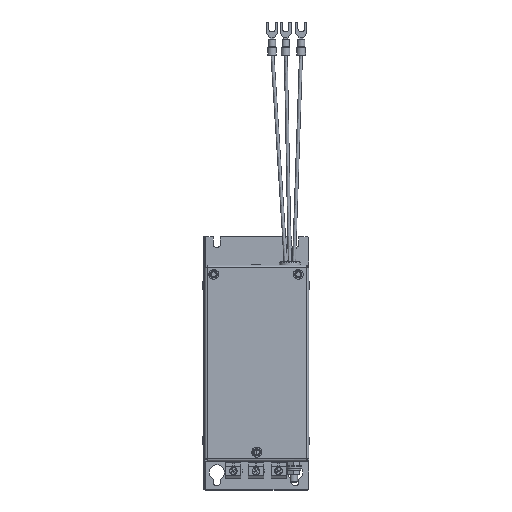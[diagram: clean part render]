
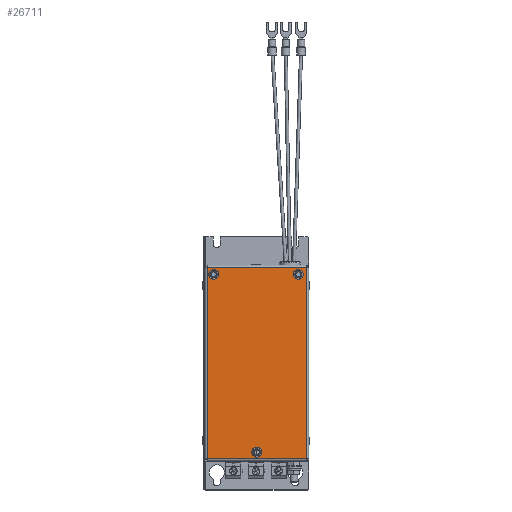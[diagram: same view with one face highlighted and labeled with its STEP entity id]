
A CAD part, top view. The second image highlights one B-rep face of the part: STEP entity #26711.
In plain terms, the highlighted planar face has unit normal (0, 0, 1) as drawn and (0, -1, 0) by its records, which use the part's own axes.
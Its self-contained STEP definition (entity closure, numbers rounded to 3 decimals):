
#598 = ORIENTED_EDGE ( 'NONE', *, *, #10527, .T. ) ;
#1787 = CARTESIAN_POINT ( 'NONE',  ( -8.654, 0., -124. ) ) ;
#2014 = CARTESIAN_POINT ( 'NONE',  ( -37.154, 0., -6. ) ) ;
#2207 = CIRCLE ( 'NONE', #21944, 2.975 ) ;
#2247 = ORIENTED_EDGE ( 'NONE', *, *, #6134, .T. ) ;
#2257 = VERTEX_POINT ( 'NONE', #18853 ) ;
#2389 = CARTESIAN_POINT ( 'NONE',  ( -64.654, 0., -124. ) ) ;
#2696 = CARTESIAN_POINT ( 'NONE',  ( -4.154, 0., -96.75 ) ) ;
#2751 = CARTESIAN_POINT ( 'NONE',  ( -70.154, 0., -1.5 ) ) ;
#2807 = EDGE_LOOP ( 'NONE', ( #14356, #15822 ) ) ;
#3588 = LINE ( 'NONE', #7884, #7640 ) ;
#3597 = ORIENTED_EDGE ( 'NONE', *, *, #20993, .T. ) ;
#3622 = VERTEX_POINT ( 'NONE', #13772 ) ;
#3791 = EDGE_CURVE ( 'NONE', #3622, #14223, #2207, .T. ) ;
#4088 = FACE_BOUND ( 'NONE', #2807, .T. ) ;
#4749 = CARTESIAN_POINT ( 'NONE',  ( -64.654, 0., -124. ) ) ;
#4886 = CIRCLE ( 'NONE', #20997, 2.975 ) ;
#4952 = LINE ( 'NONE', #2696, #5735 ) ;
#5142 = AXIS2_PLACEMENT_3D ( 'NONE', #19471, #17467, #12841 ) ;
#5429 = DIRECTION ( 'NONE',  ( 1., 0., 0. ) ) ;
#5735 = VECTOR ( 'NONE', #11440, 1000. ) ;
#6134 = EDGE_CURVE ( 'NONE', #23515, #2257, #3588, .T. ) ;
#6178 = VERTEX_POINT ( 'NONE', #13316 ) ;
#6509 = FACE_BOUND ( 'NONE', #22608, .T. ) ;
#7349 = ORIENTED_EDGE ( 'NONE', *, *, #28273, .T. ) ;
#7571 = CIRCLE ( 'NONE', #21356, 2.975 ) ;
#7640 = VECTOR ( 'NONE', #21129, 1000. ) ;
#7830 = AXIS2_PLACEMENT_3D ( 'NONE', #2389, #13410, #13140 ) ;
#7884 = CARTESIAN_POINT ( 'NONE',  ( -53.654, 0., -128.5 ) ) ;
#8276 = CIRCLE ( 'NONE', #24375, 2.975 ) ;
#8448 = VERTEX_POINT ( 'NONE', #23888 ) ;
#8466 = VECTOR ( 'NONE', #15412, 1000. ) ;
#8994 = CARTESIAN_POINT ( 'NONE',  ( -19.904, 0., -1.5 ) ) ;
#9614 = DIRECTION ( 'NONE',  ( 0., 1., 0. ) ) ;
#9894 = CARTESIAN_POINT ( 'NONE',  ( -37.154, 0., -6. ) ) ;
#10331 = VECTOR ( 'NONE', #15036, 1000. ) ;
#10527 = EDGE_CURVE ( 'NONE', #23140, #23515, #11089, .T. ) ;
#10614 = EDGE_CURVE ( 'NONE', #8448, #23555, #7571, .T. ) ;
#11089 = LINE ( 'NONE', #26338, #8466 ) ;
#11422 = EDGE_CURVE ( 'NONE', #6178, #23140, #26258, .T. ) ;
#11440 = DIRECTION ( 'NONE',  ( 0., 0., 1. ) ) ;
#11468 = EDGE_CURVE ( 'NONE', #2257, #6178, #4952, .T. ) ;
#12106 = CIRCLE ( 'NONE', #24050, 2.975 ) ;
#12278 = CARTESIAN_POINT ( 'NONE',  ( -70.154, 0., -128.5 ) ) ;
#12483 = DIRECTION ( 'NONE',  ( 1., 0., 0. ) ) ;
#12841 = DIRECTION ( 'NONE',  ( 1., 0., 0. ) ) ;
#13140 = DIRECTION ( 'NONE',  ( 1., 0., 0. ) ) ;
#13316 = CARTESIAN_POINT ( 'NONE',  ( -4.154, 0., -1.5 ) ) ;
#13410 = DIRECTION ( 'NONE',  ( 0., 1., 0. ) ) ;
#13451 = ORIENTED_EDGE ( 'NONE', *, *, #11468, .T. ) ;
#13772 = CARTESIAN_POINT ( 'NONE',  ( -34.179, 0., -6. ) ) ;
#14223 = VERTEX_POINT ( 'NONE', #14545 ) ;
#14356 = ORIENTED_EDGE ( 'NONE', *, *, #10614, .T. ) ;
#14545 = CARTESIAN_POINT ( 'NONE',  ( -40.129, 0., -6. ) ) ;
#15036 = DIRECTION ( 'NONE',  ( -1., 0., 0. ) ) ;
#15118 = CARTESIAN_POINT ( 'NONE',  ( -8.654, 0., -124. ) ) ;
#15260 = DIRECTION ( 'NONE',  ( 0., 1., 0. ) ) ;
#15412 = DIRECTION ( 'NONE',  ( 0., 0., -1. ) ) ;
#15589 = EDGE_LOOP ( 'NONE', ( #26903, #23529 ) ) ;
#15781 = EDGE_CURVE ( 'NONE', #23555, #8448, #4886, .T. ) ;
#15822 = ORIENTED_EDGE ( 'NONE', *, *, #15781, .T. ) ;
#16869 = EDGE_LOOP ( 'NONE', ( #13451, #23735, #598, #2247 ) ) ;
#17333 = FACE_BOUND ( 'NONE', #15589, .T. ) ;
#17467 = DIRECTION ( 'NONE',  ( 0., 1., 0. ) ) ;
#17719 = DIRECTION ( 'NONE',  ( 1., 0., 0. ) ) ;
#18853 = CARTESIAN_POINT ( 'NONE',  ( -4.154, 0., -128.5 ) ) ;
#19110 = EDGE_CURVE ( 'NONE', #14223, #3622, #8276, .T. ) ;
#19194 = PLANE ( 'NONE',  #5142 ) ;
#19471 = CARTESIAN_POINT ( 'NONE',  ( -37.154, 0., -65. ) ) ;
#20993 = EDGE_CURVE ( 'NONE', #25478, #23517, #26210, .T. ) ;
#20997 = AXIS2_PLACEMENT_3D ( 'NONE', #1787, #21622, #28076 ) ;
#21129 = DIRECTION ( 'NONE',  ( 1., 0., 0. ) ) ;
#21356 = AXIS2_PLACEMENT_3D ( 'NONE', #15118, #15260, #17719 ) ;
#21622 = DIRECTION ( 'NONE',  ( 0., 1., 0. ) ) ;
#21626 = CARTESIAN_POINT ( 'NONE',  ( -11.629, 0., -124. ) ) ;
#21944 = AXIS2_PLACEMENT_3D ( 'NONE', #9894, #9614, #5429 ) ;
#22608 = EDGE_LOOP ( 'NONE', ( #3597, #7349 ) ) ;
#22609 = DIRECTION ( 'NONE',  ( 0., 1., 0. ) ) ;
#23140 = VERTEX_POINT ( 'NONE', #2751 ) ;
#23371 = CARTESIAN_POINT ( 'NONE',  ( -67.629, 0., -124. ) ) ;
#23515 = VERTEX_POINT ( 'NONE', #12278 ) ;
#23517 = VERTEX_POINT ( 'NONE', #23371 ) ;
#23529 = ORIENTED_EDGE ( 'NONE', *, *, #19110, .T. ) ;
#23555 = VERTEX_POINT ( 'NONE', #21626 ) ;
#23735 = ORIENTED_EDGE ( 'NONE', *, *, #11422, .T. ) ;
#23888 = CARTESIAN_POINT ( 'NONE',  ( -5.679, 0., -124. ) ) ;
#24050 = AXIS2_PLACEMENT_3D ( 'NONE', #4749, #22609, #26499 ) ;
#24375 = AXIS2_PLACEMENT_3D ( 'NONE', #2014, #28022, #12483 ) ;
#25478 = VERTEX_POINT ( 'NONE', #26424 ) ;
#26210 = CIRCLE ( 'NONE', #7830, 2.975 ) ;
#26258 = LINE ( 'NONE', #8994, #10331 ) ;
#26338 = CARTESIAN_POINT ( 'NONE',  ( -70.154, 0., -33.25 ) ) ;
#26424 = CARTESIAN_POINT ( 'NONE',  ( -61.679, 0., -124. ) ) ;
#26499 = DIRECTION ( 'NONE',  ( 1., 0., 0. ) ) ;
#26711 = ADVANCED_FACE ( 'NONE', ( #17333, #4088, #6509, #28245 ), #19194, .F. ) ;
#26903 = ORIENTED_EDGE ( 'NONE', *, *, #3791, .T. ) ;
#28022 = DIRECTION ( 'NONE',  ( 0., 1., 0. ) ) ;
#28076 = DIRECTION ( 'NONE',  ( 1., 0., 0. ) ) ;
#28245 = FACE_OUTER_BOUND ( 'NONE', #16869, .T. ) ;
#28273 = EDGE_CURVE ( 'NONE', #23517, #25478, #12106, .T. ) ;
